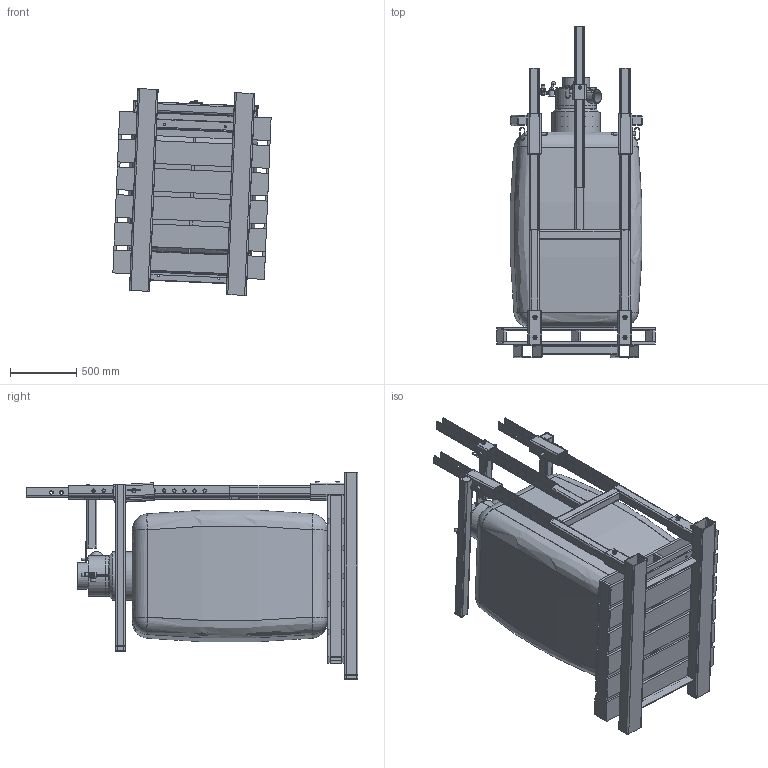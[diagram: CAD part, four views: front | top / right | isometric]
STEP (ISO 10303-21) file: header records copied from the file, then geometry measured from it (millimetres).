
FILE_DESCRIPTION(/* description */ ('BagPak 2100-ST (Spout Top)'),/* implementation_level */ '2;1');
FILE_NAME(/* name */ 'B:\Sales Drawings\2100-ST\Inventor Files\2100 ST.stp',/* time_stamp */ '2021-05-07T07:47:31-05:00',/* author */ ('rwest'),/* organization */ (''),/* preprocessor_version */ 'ST-DEVELOPER v17',/* originating_system */ 'Autodesk Inventor 2019',/* authorisation */ '');
FILE_SCHEMA (('AUTOMOTIVE_DESIGN { 1 0 10303 214 3 1 1 }'));
Length unit declared in the file: inch
Products named in the file (42): 005081; 002120; AISC - 3x3x1/4 - 24; AISC - 3x3x1/4 - 34; AISC - 2 1/2x2 1/2 - 0.125; AISC - 3x3x1/4 - 12.5; 002056; 000084; Spout Top Arm_Spout Top Sleave; Spout Top Arm_Spout Top Arm; ANSI B18.2.2 - 9/16 - 12; Spout Top Arm_Connection; 003540; 12inODx12x10 Gauge; 8inODx15x10 Gauge; 11-7/8x8x10 Gauge; 4inODx3x10 Gauge; 5/8 wide 8-1/2in Long Bent Sheet ; ANSI/ASME B18.2.1 - 1/2-13 UNC - 1.5; Valve 04; Hand Valve; Valve 01; Valve 02; Valve 03; Valve 05; Valve 06; Valve 07; Valve 08; Spout Seal; 00233; 000086-L; 000086-R; 000086.2; 000086.1; 000086.3; 48in x 48in Pallet; Bulkbag 1; 000252; AISC - L 3 x 3 x 1/4 - 22.75; AISC - 6x4x1/4 - 60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
Assembly tree (60 placements, depth 4):
  005081
    002120
      002056  x3
      AISC - 3x3x1/4 - 24
      AISC - 3x3x1/4 - 34  x2
      AISC - 2 1/2x2 1/2 - 0.125  x2
      AISC - 3x3x1/4 - 12.5
    000084
      Spout Top Arm_Spout Top Sleave
      Spout Top Arm_Spout Top Arm
      ANSI B18.2.2 - 9/16 - 12
      Spout Top Arm_Connection
      000086.3
    003540
      12inODx12x10 Gauge
      8inODx15x10 Gauge
      11-7/8x8x10 Gauge
      4inODx3x10 Gauge
      5/8 wide 8-1/2in Long Bent Sheet 
      ANSI/ASME B18.2.1 - 1/2-13 UNC - 1.5  x2
      Valve 04
      Hand Valve
        Valve 01
        Valve 02
        Valve 03
        Valve 05
        Valve 06
        Valve 07
        Valve 08
      Spout Seal
    00233  x3
    000086-L
      000086.2
      000086.1
      000086.3  x2
    000086-R
      000086.2
      000086.1
      000086.3  x2
    48in x 48in Pallet
    Bulkbag 1
    000252
      AISC - L 3 x 3 x 1/4 - 22.75  x2
      AISC - 6x4x1/4 - 60  x2
      AISC - 4x4x1/4 - 10  x2
      ANSI B18.2.2 - 3/4 - 10  x4
Bounding box: 1193.42 x 2501.9 x 1559.88 mm (x, y, z)
Volume: 96509807.8 mm3; surface area: 29696152.7 mm2
Topology: 67 solids, 67 shells, 1053 faces, 2551 edges, 1644 vertices
Faces by surface type: plane 522, cylinder 326, cone 139, bspline 32, sphere 18, torus 16
Full cylindrical faces by diameter (mm): 3.175 x3, 5.08 x9, 6.35 x6, 10.001 x10, 11.989 x1, 12.7 x2, 13.081 x2, 15.875 x7, 16.307 x4, 18.974 x3, 19.05 x5, 20.637 x4, 25.4 x78, 28 x2, 31.75 x3, 40 x1, 40.386 x1, 97.805 x1, 101.6 x2, 199.405 x1, 203.2 x2, 301.005 x1, 304.8 x2, 305.562 x2, 354.838 x1, 355.6 x1, 363.22 x1, 368.3 x1
Entity records: 23313 total; most frequent: CARTESIAN_POINT 5801, DIRECTION 3448, ORIENTED_EDGE 3226, EDGE_CURVE 1613, AXIS2_PLACEMENT_3D 1321, VERTEX_POINT 1042, EDGE_LOOP 821, LINE 806
